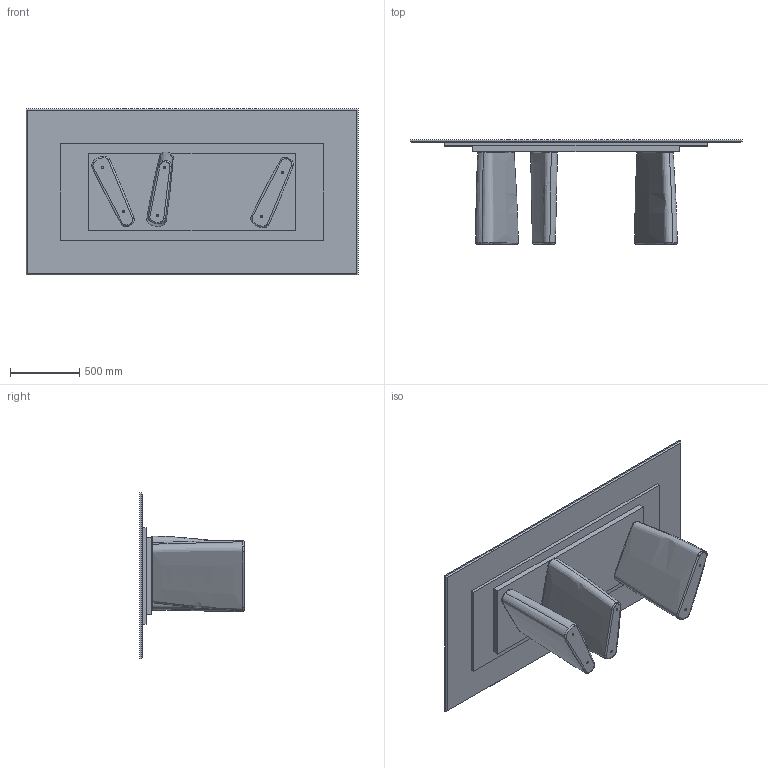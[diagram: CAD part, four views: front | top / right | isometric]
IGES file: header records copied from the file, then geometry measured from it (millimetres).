
Start section: SolidWorks IGES file using analytic representation for surfaces
Global section: file name: Y:\eforma\TECNICO\SOLIDWORKS\E-FORMA\1-TAVOLI\ALBERT\08 modelli 3D web\marmo 240x120.IGS; native system: SolidWorks 2022; preprocessor: SolidWorks 2022; author: eforma.tech; date: 250414.164341; units: millimetre
Bounding box: 2400 x 755 x 1200 mm (x, y, z)
Volume: 242911134.1 mm3; surface area: 13172496.1 mm2
Topology: 6 solids, 6 shells, 154 faces, 374 edges, 244 vertices
Faces by surface type: revolution 60, bspline 54, plane 40
